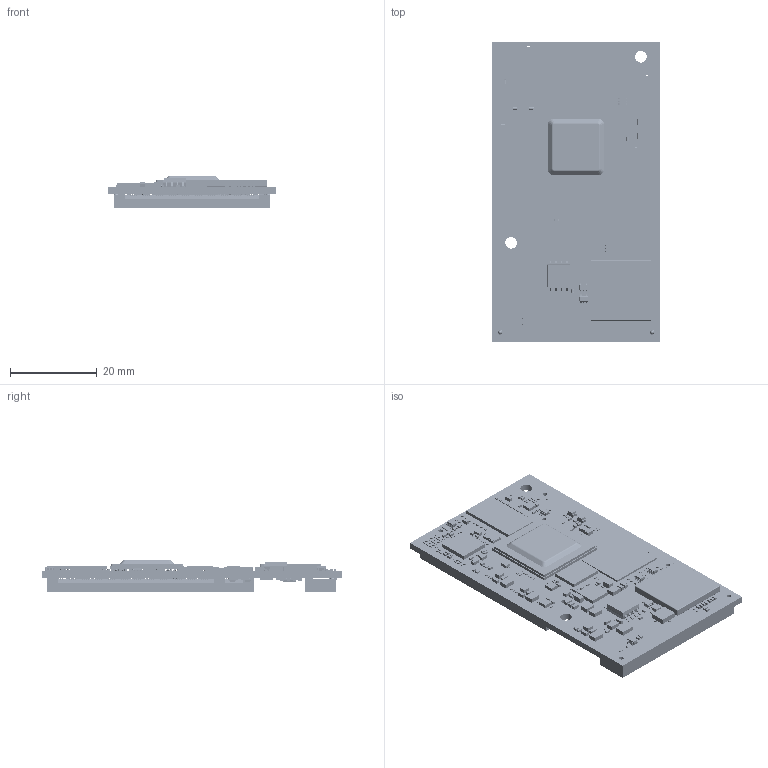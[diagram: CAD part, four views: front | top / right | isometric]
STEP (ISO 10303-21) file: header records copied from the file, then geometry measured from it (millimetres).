
FILE_DESCRIPTION(('STEP AP214'),'1');
FILE_NAME('Board1_BoardAndModels.step','2024-08-26T13:54:54',(' '),(' '),'Spatial InterOp 3D','XD3DPlugin XRACreate',' ');
FILE_SCHEMA(('automotive_design'));
Length unit declared in the file: millimetre
Products named in the file (183): Submodel-C:\Users\jwenk\Desktop\PL4666.1 SOM\PCB\Layout\3D\Input_S\0201YC101KAZ2A.xtd; 0201YC101KAZ2A; Submodel-CAP2933_part_simplified_0201; DesignRootModel; Submodel-C:\Users\jwenk\Desktop\PL4666.1 SOM\PCB\Layout\3D\Input_S\JUMP353.xtd; JUMP353; Submodel-JUMP353_part_simplified_0201; Submodel-C:\Users\jwenk\Desktop\PL4666.1 SOM\PCB\Layout\3D\Input_S\GMC10X7R104K100NT.xtd; GMC10X7R104K100NT; Submodel-CAP2493_part_simplified_0603-C3; Submodel-C:\Users\jwenk\Desktop\PL4666.1 SOM\PCB\Layout\3D\Input_S\C0402C270F5GAC_0.xtd; C0402C270F5GAC_0; Submodel-CAP2593_part_simplified_0402-1200x600um; Submodel-C:\Users\jwenk\Desktop\PL4666.1 SOM\PCB\Layout\3D\Input_S\CRCW020110R7JNEF.xtd; CRCW020110R7JNEF; Submodel-RES5653_part_simplified_0201; Submodel-C:\Users\jwenk\Desktop\PL4666.1 SOM\PCB\Layout\3D\Input_S\DCDC1033_DRV0006A.xtd; DCDC1033_DRV0006A; Submodel-DCDC1033_part_simplified_WSON6-65; Submodel-C:\Users\jwenk\Desktop\PL4666.1 SOM\PCB\Layout\3D\Input_S\RCC-0402-1000F.xtd; RCC-0402-1000F; Submodel-RES2912_part_simplified_0402-C3; Submodel-CAP3303_part_simplified_0201; Submodel-CAP1703_part_simplified_0402-C3; Submodel-C:\Users\jwenk\Desktop\PL4666.1 SOM\PCB\Layout\3D\Input_S\RC0603F1005CS.xtd; RC0603F1005CS; Submodel-RES5673_part_simplified_0201; Submodel-C:\Users\jwenk\Desktop\PL4666.1 SOM\PCB\Layout\3D\Input_S\BLM15BD471SN1D.xtd; BLM15BD471SN1D; Submodel-FILTER92_part_simplified_0402-C3; Submodel-C:\Users\jwenk\Desktop\PL4666.1 SOM\PCB\Layout\3D\Input_S\REMOVE_MECH233.xtd; REMOVE_MECH233; Submodel-MECH233_part_simplified_Fiducial-round; Submodel-RES5803_part_simplified_0201; Submodel-RES3602_part_simplified_0402-C3; Submodel-CAP2863_part_simplified_0402-1200x600um; Submodel-C:\Users\jwenk\Desktop\PL4666.1 SOM\PCB\Layout\3D\Input_S\GRM155R71C104KA88D.xtd; GRM155R71C104KA88D; Submodel-CAP722_part_simplified_0402-C3; Submodel-C:\Users\jwenk\Desktop\PL4666.1 SOM\PCB\Layout\3D\Input_S\ICGEN4743_DBZ0003A.xtd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
Assembly tree (803 placements, depth 6):
  Board1_BoardAndModels
    DesignRootModel
      Submodel-CAP2933_part_simplified_0201  x105
        Submodel-C:\Users\jwenk\Desktop\PL4666.1 SOM\PCB\Layout\3D\Input_S\0201YC101KAZ2A.xtd
          0201YC101KAZ2A
      Submodel-JUMP353_part_simplified_0201
        Submodel-C:\Users\jwenk\Desktop\PL4666.1 SOM\PCB\Layout\3D\Input_S\JUMP353.xtd
          JUMP353
      Submodel-CAP2493_part_simplified_0603-C3  x20
        Submodel-C:\Users\jwenk\Desktop\PL4666.1 SOM\PCB\Layout\3D\Input_S\GMC10X7R104K100NT.xtd
          GMC10X7R104K100NT
      Submodel-CAP2593_part_simplified_0402-1200x600um  x18
        Submodel-C:\Users\jwenk\Desktop\PL4666.1 SOM\PCB\Layout\3D\Input_S\C0402C270F5GAC_0.xtd
          C0402C270F5GAC_0
      Submodel-RES5653_part_simplified_0201  x42
        Submodel-C:\Users\jwenk\Desktop\PL4666.1 SOM\PCB\Layout\3D\Input_S\CRCW020110R7JNEF.xtd
          CRCW020110R7JNEF
      Submodel-DCDC1033_part_simplified_WSON6-65  x2
        Submodel-C:\Users\jwenk\Desktop\PL4666.1 SOM\PCB\Layout\3D\Input_S\DCDC1033_DRV0006A.xtd
          DCDC1033_DRV0006A
      Submodel-RES2912_part_simplified_0402-C3  x12
        Submodel-C:\Users\jwenk\Desktop\PL4666.1 SOM\PCB\Layout\3D\Input_S\RCC-0402-1000F.xtd
          RCC-0402-1000F
      Submodel-CAP3303_part_simplified_0201  x2
        Submodel-C:\Users\jwenk\Desktop\PL4666.1 SOM\PCB\Layout\3D\Input_S\0201YC101KAZ2A.xtd
          0201YC101KAZ2A
      Submodel-CAP1703_part_simplified_0402-C3  x50
        Submodel-C:\Users\jwenk\Desktop\PL4666.1 SOM\PCB\Layout\3D\Input_S\C0402C270F5GAC_0.xtd
          C0402C270F5GAC_0
      Submodel-RES5673_part_simplified_0201  x55
        Submodel-C:\Users\jwenk\Desktop\PL4666.1 SOM\PCB\Layout\3D\Input_S\RC0603F1005CS.xtd
          RC0603F1005CS
      Submodel-FILTER92_part_simplified_0402-C3  x12
        Submodel-C:\Users\jwenk\Desktop\PL4666.1 SOM\PCB\Layout\3D\Input_S\BLM15BD471SN1D.xtd
          BLM15BD471SN1D
      Submodel-MECH233_part_simplified_Fiducial-round  x2
        Submodel-C:\Users\jwenk\Desktop\PL4666.1 SOM\PCB\Layout\3D\Input_S\REMOVE_MECH233.xtd
          REMOVE_MECH233
      Submodel-RES5803_part_simplified_0201  x74
        Submodel-C:\Users\jwenk\Desktop\PL4666.1 SOM\PCB\Layout\3D\Input_S\RC0603F1005CS.xtd
          RC0603F1005CS
      Submodel-RES3602_part_simplified_0402-C3  x27
        Submodel-C:\Users\jwenk\Desktop\PL4666.1 SOM\PCB\Layout\3D\Input_S\RCC-0402-1000F.xtd
          RCC-0402-1000F
      Submodel-CAP2863_part_simplified_0402-1200x600um  x6
        Submodel-C:\Users\jwenk\Desktop\PL4666.1 SOM\PCB\Layout\3D\Input_S\C0402C270F5GAC_0.xtd
          C0402C270F5GAC_0
      Submodel-CAP722_part_simplified_0402-C3  x60
        Submodel-C:\Users\jwenk\Desktop\PL4666.1 SOM\PCB\Layout\3D\Input_S\GRM155R71C104KA88D.xtd
          GRM155R71C104KA88D
      Submodel-ICGEN4743_part_simplified_SOT23-DBZ0003A  x2
        Submodel-C:\Users\jwenk\Desktop\PL4666.1 SOM\PCB\Layout\3D\Input_S\ICGEN4743_DBZ0003A.xtd
          ICGEN4743_DBZ0003A
      Submodel-CONN2292_part_simplified_Testpunkt-1mm  x34
        Submodel-C:\Users\jwenk\Desktop\PL4666.1 SOM\PCB\Layout\3D\Input_S\REMOVE_CONN2292.xtd
          REMOVE_CONN2292
      Submodel-RES5713_part_simplified_0201  x7
        Submodel-C:\Users\jwenk\Desktop\PL4666.1 SOM\PCB\Layout\3D\Input_S\RC0603F1005CS.xtd
          RC0603F1005CS
      Submodel-TRANSISTOR932_part_simplified_DFN-0806-3  x6
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Bounding box: 39 x 69.5 x 7.36 mm (x, y, z)
Volume: 7029.9 mm3; surface area: 18460.2 mm2
Topology: 1532 solids, 1532 shells, 25057 faces, 63571 edges, 40917 vertices
Faces by surface type: plane 18188, cylinder 4865, sphere 1492, bspline 492, torus 16, extrusion 4
Full cylindrical faces by diameter (mm): 1.1 x6, 2.7 x2
Entity records: 739345 total; most frequent: CARTESIAN_POINT 110494, ORIENTED_EDGE 91644, DIRECTION 91170, EDGE_CURVE 45822, VECTOR 35866, LINE 35862, VERTEX_POINT 30550, AXIS2_PLACEMENT_3D 27652
